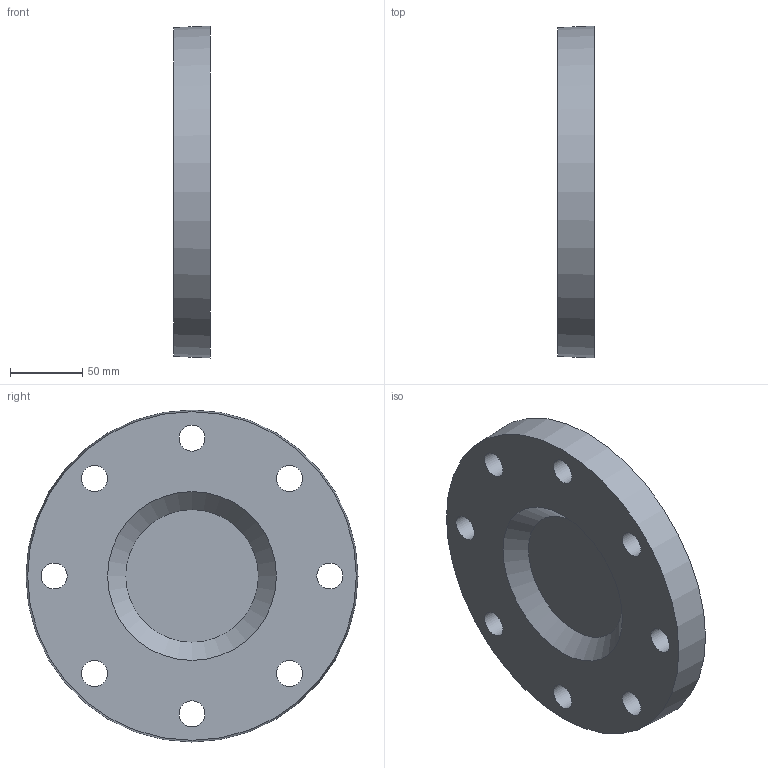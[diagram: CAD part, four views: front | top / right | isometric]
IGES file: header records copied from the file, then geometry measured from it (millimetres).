
Global section: file name: 059100125.ipt; native system: Autodesk Inventor 2015; preprocessor: unknown; author: KIM; date: 20171207.165932; units: millimetre
Bounding box: 25 x 230 x 230 mm (x, y, z)
Volume: 869235 mm3; surface area: 110046.8 mm2
Topology: 1 solids, 1 shells, 25 faces, 50 edges, 34 vertices
Faces by surface type: revolution 12, plane 9, cylinder 3, cone 1
Full cylindrical faces by diameter (mm): 92 x1, 96.6 x1, 101.2 x1
